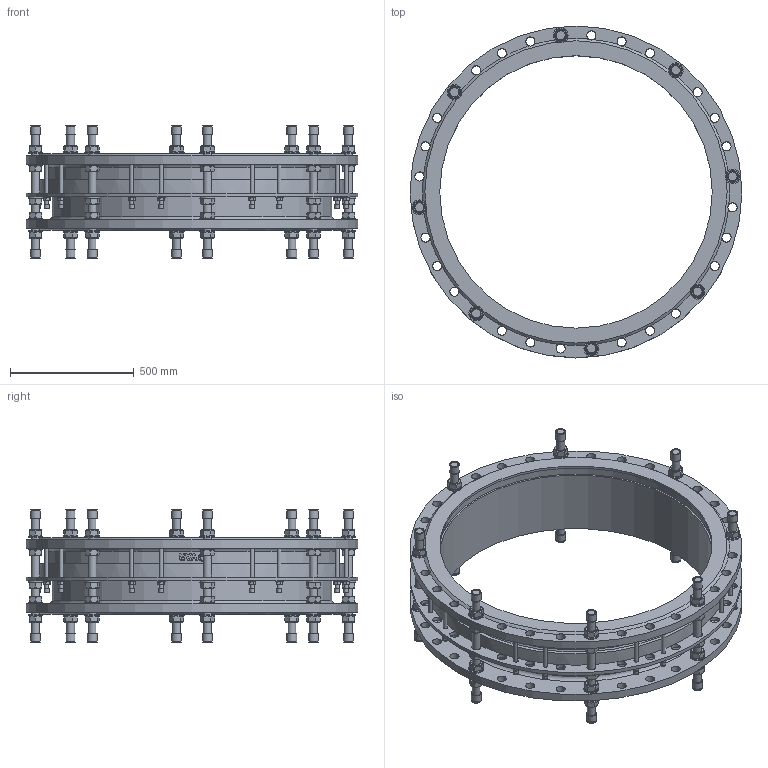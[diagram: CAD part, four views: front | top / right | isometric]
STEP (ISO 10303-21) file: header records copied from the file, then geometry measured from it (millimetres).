
FILE_DESCRIPTION(('STEP AP242'), '1');
FILE_NAME('Ìîíòàæíàÿ âñòàâêà', '', ('UNSPECIFIED'), ('UNSPECIFIED'), 'C3D Converter', 'C3D Toolkit', '');
FILE_SCHEMA(('AP242_MANAGED_MODEL_BASED_3D_ENGINEERING_MIM_LF { 1 0 10303 442 1 1 4 }'));
Length unit declared in the file: millimetre
Products named in the file (13): ШМ.М16.310; ШМ.М16.206
Assembly tree (172 placements, depth 2):
  (unnamed)
    (unnamed)
    (unnamed)
    (unnamed)
    (unnamed)
    (unnamed)  x40
    (unnamed)  x40
    ШМ.М16.310  x8
    (unnamed)  x16
    (unnamed)  x16
    (unnamed)  x16
    ШМ.М16.206  x16
    (unnamed)  x16
Bounding box: 1340 x 1340 x 536.6 mm (x, y, z)
Volume: 66419949.2 mm3; surface area: 7933220.6 mm2
Topology: 176 solids, 176 shells, 1496 faces, 3325 edges, 2140 vertices
Faces by surface type: plane 767, cylinder 406, cone 278, torus 34, extrusion 11
Full cylindrical faces by diameter (mm): 16 x64, 17 x16, 18 x16, 19.2 x16, 30 x16, 33 x64, 33.221 x1, 34 x40, 37 x96, 39.6 x16, 60 x40, 1100 x2, 1130 x2, 1145 x2, 1175 x1, 1190 x1, 1203 x1, 1233 x1, 1340 x3
Entity records: 24285 total; most frequent: CARTESIAN_POINT 11080, DIRECTION 2066, ORIENTED_EDGE 1506, AXIS2_PLACEMENT_3D 996, EDGE_CURVE 753, EDGE_LOOP 675, VERTEX_POINT 604, CIRCLE 546
